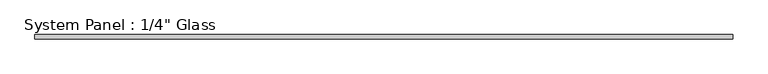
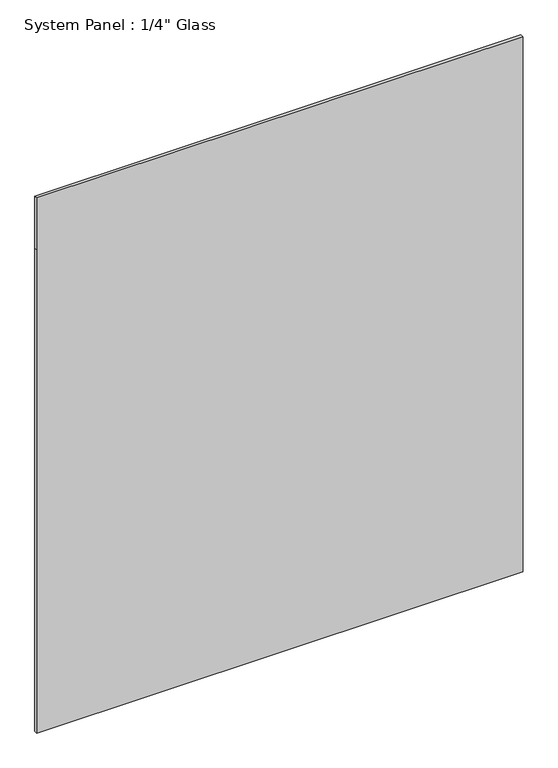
"""IFC4 building model written with IfcOpenShell, lengths in millimetres: plate geometry."""

import ifcopenshell
import ifcopenshell.guid

model = None  # the IFC model being written
_history = None  # IfcOwnerHistory: only IFC2X3 demands one
_inside = {}  # id of a spatial element -> (the spatial element, [elements in it])
_under = {}  # id of a project, library or spatial element -> (it, [spatial elements below it])
_declared = {}  # id of a project -> (the project, [libraries it declares])
_typed = {}  # id of a type object -> (the type object, [elements of that type])
_made_of = {}  # id of a material, layer set ... -> (it, [elements and type objects made of it])


def new_model(schema):
    """Start an empty IFC model of exactly this schema.

    Asked for "IFC4X3", IfcOpenShell would pick the latest addendum, in which some entities
    have other attributes; the version numbers below select the first issue.
    IFC2X3 requires an IfcOwnerHistory on every rooted entity: one is made here for all.
    """
    global model, _history
    if schema == "IFC4X3":
        model = ifcopenshell.file(schema_version=(4, 3, 0, 0))
    else:
        model = ifcopenshell.file(schema=schema)
    _inside.clear()
    _under.clear()
    _declared.clear()
    _typed.clear()
    _made_of.clear()
    _history = None
    if model.schema == "IFC2X3":
        org = make("IfcOrganization", Name="unknown")
        user = make(
            "IfcPersonAndOrganization",
            ThePerson=make("IfcPerson", FamilyName="unknown"),
            TheOrganization=org,
        )
        app = make(
            "IfcApplication",
            ApplicationDeveloper=org,
            Version="unknown",
            ApplicationFullName="unknown",
            ApplicationIdentifier="unknown",
        )
        _history = make(
            "IfcOwnerHistory",
            OwningUser=user,
            OwningApplication=app,
            ChangeAction="ADDED",
            CreationDate=0,
        )
    return model


def make(cls, **values):
    """One entity of the class cls with the attributes given. An attribute that is None is left unset."""
    return model.create_entity(
        cls, **{name: value for name, value in values.items() if value is not None}
    )


def rooted(cls, **values):
    """An entity with a GlobalId (a new one), such as an element, a storey or a relation."""
    return make(cls, GlobalId=ifcopenshell.guid.new(), OwnerHistory=_history, **values)


def si_unit(unit_type, name, prefix=None):
    """IfcSIUnit, for example si_unit("LENGTHUNIT", "METRE", prefix="MILLI")."""
    return make("IfcSIUnit", UnitType=unit_type, Prefix=prefix, Name=name)


def assignment(units):
    """IfcUnitAssignment: the units of a project."""
    return None if units is None else make("IfcUnitAssignment", Units=units)


def point(xyz):
    """IfcCartesianPoint."""
    return None if xyz is None else make("IfcCartesianPoint", Coordinates=xyz)


def direction(xyz):
    """IfcDirection."""
    return None if xyz is None else make("IfcDirection", DirectionRatios=xyz)


def frame(location, z_axis=None, x_axis=None):
    """IfcAxis2Placement3D, a coordinate frame: its origin and axes. An axis left out is left unset."""
    return make(
        "IfcAxis2Placement3D",
        Location=point(location),
        Axis=direction(z_axis),
        RefDirection=direction(x_axis),
    )


def origin():
    """The frame at (0, 0, 0) with its axes left unset."""
    return frame((0.0, 0.0, 0.0))


def place(relative_to, where):
    """IfcLocalPlacement: puts the frame where relative to a parent placement (None: the world)."""
    return make(
        "IfcLocalPlacement", PlacementRelTo=relative_to, RelativePlacement=where
    )


def context(
    kind, dimensions, precision=None, world=None, true_north=None, identifier=None
):
    """IfcGeometricRepresentationContext, for example the 3D "Model" context."""
    return make(
        "IfcGeometricRepresentationContext",
        ContextIdentifier=identifier,
        ContextType=kind,
        CoordinateSpaceDimension=dimensions,
        Precision=precision,
        WorldCoordinateSystem=world,
        TrueNorth=true_north,
    )


def project(units=None, contexts=None):
    """IfcProject with its units and contexts."""
    return rooted(
        "IfcProject",
        Name="project",
        RepresentationContexts=contexts,
        UnitsInContext=assignment(units),
    )


def spatial(cls, under=None, at=None, **own):
    """A site, building, storey or space (cls), placed at a placement, below another one or the project."""
    s = rooted(cls, ObjectPlacement=at, **own)
    if under is not None:
        _under.setdefault(under.id(), (under, []))[1].append(s)
    return s


def polyline(points):
    """IfcPolyline through the points."""
    return make("IfcPolyline", Points=[point(p) for p in points])


def outline(outer, holes=None, kind="AREA"):
    """IfcArbitraryClosedProfileDef: a profile drawn as a closed curve; with holes, ...WithVoids."""
    if holes is None:
        return make("IfcArbitraryClosedProfileDef", ProfileType=kind, OuterCurve=outer)
    return make(
        "IfcArbitraryProfileDefWithVoids",
        ProfileType=kind,
        OuterCurve=outer,
        InnerCurves=holes,
    )


def extrude(swept, where, along, depth):
    """IfcExtrudedAreaSolid: the profile swept, set in the frame where, extruded along a direction by depth."""
    return make(
        "IfcExtrudedAreaSolid",
        SweptArea=swept,
        Position=where,
        ExtrudedDirection=direction(along),
        Depth=depth,
    )


def shape(context_of_items, identifier, shape_type, items):
    """IfcShapeRepresentation: the items that make up one representation, for example the "Body"."""
    return make(
        "IfcShapeRepresentation",
        ContextOfItems=context_of_items,
        RepresentationIdentifier=identifier,
        RepresentationType=shape_type,
        Items=items,
    )


def source(mapping_origin, context_of_items, identifier, shape_type, items):
    """IfcRepresentationMap: a shape defined once, which mapped items show again and again."""
    return make(
        "IfcRepresentationMap",
        MappingOrigin=mapping_origin,
        MappedRepresentation=shape(context_of_items, identifier, shape_type, items),
    )


def transform(
    local_origin,
    x_axis=None,
    y_axis=None,
    z_axis=None,
    scale=None,
    scale2=None,
    scale3=None,
    uniform=True,
):
    """IfcCartesianTransformationOperator3D, or its non-uniform kind. x_axis, y_axis, z_axis: its Axis1, 2, 3."""
    if uniform:
        return make(
            "IfcCartesianTransformationOperator3D",
            Axis1=direction(x_axis),
            Axis2=direction(y_axis),
            LocalOrigin=point(local_origin),
            Scale=scale,
            Axis3=direction(z_axis),
        )
    return make(
        "IfcCartesianTransformationOperator3DnonUniform",
        Axis1=direction(x_axis),
        Axis2=direction(y_axis),
        LocalOrigin=point(local_origin),
        Scale=scale,
        Axis3=direction(z_axis),
        Scale2=scale2,
        Scale3=scale3,
    )


def mapped(mapping_source, mapping_target):
    """IfcMappedItem: shows the shape of a source again, moved by a transform."""
    return make(
        "IfcMappedItem", MappingSource=mapping_source, MappingTarget=mapping_target
    )


def made_of(thing, what):
    """Note that an element or type object is made of a material, layer set ...; save() writes the relation."""
    if what is not None:
        _made_of.setdefault(what.id(), (what, []))[1].append(thing)
    return thing


def element(
    cls,
    number,
    at=None,
    inside=None,
    cuts=None,
    type_object=None,
    material=None,
    context=None,
    identifier="Body",
    shape_type=None,
    held_by="IfcProductDefinitionShape",
    body=None,
    shapes=None,
    **own,
):
    """One element of the class cls, such as IfcWall. Its Tag is "e" and its number.

    at: its placement. inside: the storey or other place that contains it. cuts: it is an
    opening in that element (IfcRelVoidsElement). A single representation is given by context,
    identifier, shape_type and body (its items); several are given by shapes. held_by: the class
    of the entity that holds the representations. save() writes the other relations.
    """
    e = rooted(cls, Tag="e%d" % number, ObjectPlacement=at, **own)
    if body is not None:
        shapes = [shape(context, identifier, shape_type, body)]
    if shapes is not None:
        e.Representation = make(held_by, Representations=shapes)
    if inside is not None:
        _inside.setdefault(inside.id(), (inside, []))[1].append(e)
    if cuts is not None:
        rooted(
            "IfcRelVoidsElement", RelatingBuildingElement=cuts, RelatedOpeningElement=e
        )
    if type_object is not None:
        _typed.setdefault(type_object.id(), (type_object, []))[1].append(e)
    return made_of(e, material)


def aggregate(whole, parts):
    """IfcRelAggregates: a whole, such as a stair, and the parts it consists of."""
    return rooted("IfcRelAggregates", RelatingObject=whole, RelatedObjects=parts)


def save(model, path):
    """Write the relations noted so far, then the file.

    IfcRelAggregates (storeys below a building ...), IfcRelContainedInSpatialStructure (elements
    in a storey), IfcRelDefinesByType, IfcRelAssociatesMaterial and IfcRelDeclares: one each for
    every whole, place, type object, material and project.
    """
    for whole, parts in _under.values():
        aggregate(whole, parts)
    for where, things in _inside.values():
        rooted(
            "IfcRelContainedInSpatialStructure",
            RelatedElements=things,
            RelatingStructure=where,
        )
    for kind, things in _typed.values():
        rooted("IfcRelDefinesByType", RelatedObjects=things, RelatingType=kind)
    for what, things in _made_of.values():
        rooted("IfcRelAssociatesMaterial", RelatedObjects=things, RelatingMaterial=what)
    for by, libraries in _declared.values():
        rooted("IfcRelDeclares", RelatingContext=by, RelatedDefinitions=libraries)
    model.write(path)


def plate_fda873d3(model_context):
    return source(origin(), model_context, "Body", "SweptSolid", [
        extrude(outline(polyline([(0.0, -531.7477435), (0.0, 531.7477435), (1116.4405973, 531.7477435), (1237.0923678, 531.7477435), (1237.0923678, -531.7477435), (1116.4405973, -531.7477435), (0.0, -531.7477435)])), frame((0.0, -3.175, 0.0), z_axis=(0.0, 1.0, 0.0), x_axis=(0.0, 0.0, 1.0)), (0.0, 0.0, 1.0), 6.35),
    ])


if __name__ == "__main__":
    model = new_model("IFC4")
    model_context = context("Model", 3, world=origin())
    ifc_project = project(units=[si_unit("LENGTHUNIT", "METRE", prefix="MILLI")], contexts=[model_context])
    site = spatial("IfcSite", under=ifc_project)
    building = spatial("IfcBuilding", under=site)
    placement = place(None, origin())
    plate_shape = plate_fda873d3(model_context)
    element("IfcPlate", 1, ObjectType="System Panel : 1/4\" Glass", at=placement, inside=building, context=model_context, shape_type="MappedRepresentation", body=[
        mapped(plate_shape, transform((0.0, 0.0, 0.0), x_axis=(1.0, 0.0, 0.0), y_axis=(0.0, 1.0, 0.0), z_axis=(0.0, 0.0, 1.0))),
    ])
    save(model, "model.ifc")
